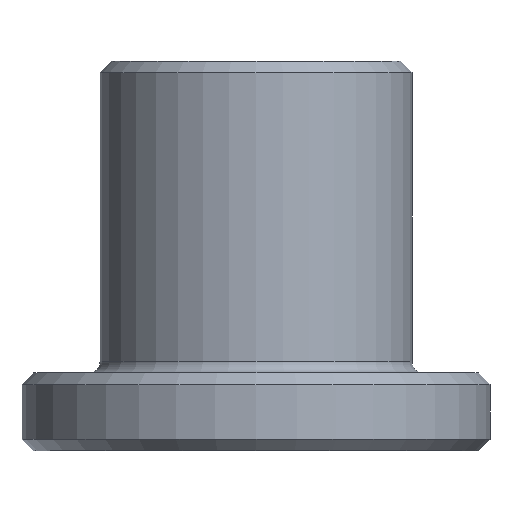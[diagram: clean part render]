
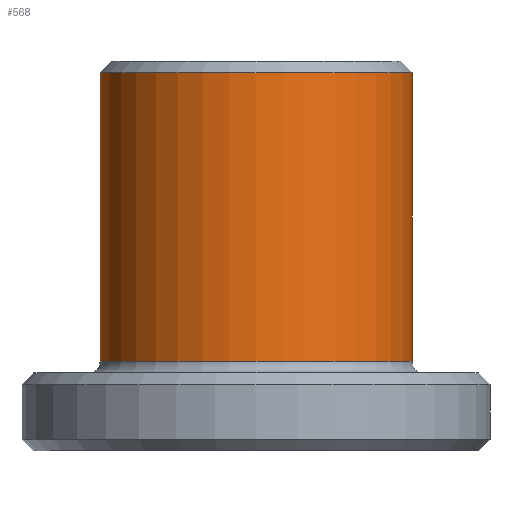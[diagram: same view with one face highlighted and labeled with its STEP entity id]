
A CAD part, front view. The second image highlights one B-rep face of the part: STEP entity #568.
In plain terms, the highlighted cylindrical face has radius 4 mm (diameter 8 mm), a partial arc.
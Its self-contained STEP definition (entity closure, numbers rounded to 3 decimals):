
#56 = CARTESIAN_POINT ( 'NONE',  ( -4., 0., 0. ) ) ;
#71 = DIRECTION ( 'NONE',  ( 0., 0., 1. ) ) ;
#73 = ORIENTED_EDGE ( 'NONE', *, *, #169, .T. ) ;
#79 = DIRECTION ( 'NONE',  ( 0., 0., 1. ) ) ;
#82 = VERTEX_POINT ( 'NONE', #275 ) ;
#85 = CARTESIAN_POINT ( 'NONE',  ( -4., 0., -0.3 ) ) ;
#126 = VERTEX_POINT ( 'NONE', #85 ) ;
#138 = CARTESIAN_POINT ( 'NONE',  ( 4., 0., -0.3 ) ) ;
#155 = VECTOR ( 'NONE', #79, 1000. ) ;
#158 = DIRECTION ( 'NONE',  ( 0., 0., 1. ) ) ;
#169 = EDGE_CURVE ( 'NONE', #285, #82, #396, .T. ) ;
#172 = CIRCLE ( 'NONE', #203, 4. ) ;
#185 = EDGE_CURVE ( 'NONE', #404, #126, #172, .T. ) ;
#203 = AXIS2_PLACEMENT_3D ( 'NONE', #296, #302, #305 ) ;
#204 = ORIENTED_EDGE ( 'NONE', *, *, #420, .F. ) ;
#232 = AXIS2_PLACEMENT_3D ( 'NONE', #584, #531, #511 ) ;
#250 = CARTESIAN_POINT ( 'NONE',  ( 4., 0., 0. ) ) ;
#253 = CARTESIAN_POINT ( 'NONE',  ( -4., 0., -7.7 ) ) ;
#257 = EDGE_LOOP ( 'NONE', ( #204, #73, #440, #571 ) ) ;
#275 = CARTESIAN_POINT ( 'NONE',  ( 4., 0., -7.7 ) ) ;
#279 = FACE_OUTER_BOUND ( 'NONE', #257, .T. ) ;
#285 = VERTEX_POINT ( 'NONE', #253 ) ;
#293 = EDGE_CURVE ( 'NONE', #82, #404, #591, .T. ) ;
#296 = CARTESIAN_POINT ( 'NONE',  ( 0., 0., -0.3 ) ) ;
#302 = DIRECTION ( 'NONE',  ( 0., 0., -1. ) ) ;
#305 = DIRECTION ( 'NONE',  ( 1., 0., 0. ) ) ;
#320 = CARTESIAN_POINT ( 'NONE',  ( 0., 0., 0. ) ) ;
#381 = AXIS2_PLACEMENT_3D ( 'NONE', #320, #158, #505 ) ;
#396 = CIRCLE ( 'NONE', #232, 4. ) ;
#404 = VERTEX_POINT ( 'NONE', #138 ) ;
#420 = EDGE_CURVE ( 'NONE', #285, #126, #508, .T. ) ;
#440 = ORIENTED_EDGE ( 'NONE', *, *, #293, .T. ) ;
#456 = VECTOR ( 'NONE', #71, 1000. ) ;
#498 = CYLINDRICAL_SURFACE ( 'NONE', #381, 4. ) ;
#505 = DIRECTION ( 'NONE',  ( 1., 0., 0. ) ) ;
#508 = LINE ( 'NONE', #56, #155 ) ;
#511 = DIRECTION ( 'NONE',  ( 1., 0., 0. ) ) ;
#531 = DIRECTION ( 'NONE',  ( 0., 0., 1. ) ) ;
#568 = ADVANCED_FACE ( 'NONE', ( #279 ), #498, .T. ) ;
#571 = ORIENTED_EDGE ( 'NONE', *, *, #185, .T. ) ;
#584 = CARTESIAN_POINT ( 'NONE',  ( 0., 0., -7.7 ) ) ;
#591 = LINE ( 'NONE', #250, #456 ) ;
